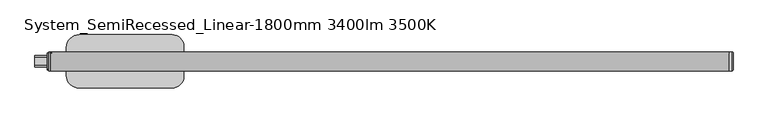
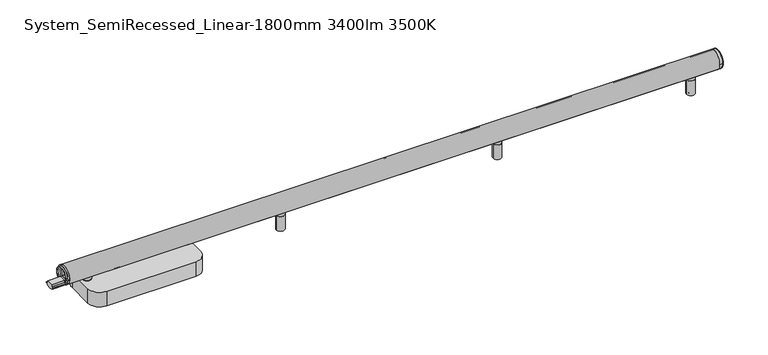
"""IFC4 building model written with IfcOpenShell, lengths in millimetres: light fixture geometry, ARTEMIDE-AoL-System-Linear_WallCeiling_US : System_SemiRecessed_Linear-1800mm 3400lm 3500K."""

import ifcopenshell
import ifcopenshell.guid

model = None  # the IFC model being written
_history = None  # IfcOwnerHistory: only IFC2X3 demands one
_inside = {}  # id of a spatial element -> (the spatial element, [elements in it])
_under = {}  # id of a project, library or spatial element -> (it, [spatial elements below it])
_declared = {}  # id of a project -> (the project, [libraries it declares])
_typed = {}  # id of a type object -> (the type object, [elements of that type])
_made_of = {}  # id of a material, layer set ... -> (it, [elements and type objects made of it])


def new_model(schema):
    """Start an empty IFC model of exactly this schema.

    Asked for "IFC4X3", IfcOpenShell would pick the latest addendum, in which some entities
    have other attributes; the version numbers below select the first issue.
    IFC2X3 requires an IfcOwnerHistory on every rooted entity: one is made here for all.
    """
    global model, _history
    if schema == "IFC4X3":
        model = ifcopenshell.file(schema_version=(4, 3, 0, 0))
    else:
        model = ifcopenshell.file(schema=schema)
    _inside.clear()
    _under.clear()
    _declared.clear()
    _typed.clear()
    _made_of.clear()
    _history = None
    if model.schema == "IFC2X3":
        org = make("IfcOrganization", Name="unknown")
        user = make(
            "IfcPersonAndOrganization",
            ThePerson=make("IfcPerson", FamilyName="unknown"),
            TheOrganization=org,
        )
        app = make(
            "IfcApplication",
            ApplicationDeveloper=org,
            Version="unknown",
            ApplicationFullName="unknown",
            ApplicationIdentifier="unknown",
        )
        _history = make(
            "IfcOwnerHistory",
            OwningUser=user,
            OwningApplication=app,
            ChangeAction="ADDED",
            CreationDate=0,
        )
    return model


def make(cls, **values):
    """One entity of the class cls with the attributes given. An attribute that is None is left unset."""
    return model.create_entity(
        cls, **{name: value for name, value in values.items() if value is not None}
    )


def rooted(cls, **values):
    """An entity with a GlobalId (a new one), such as an element, a storey or a relation."""
    return make(cls, GlobalId=ifcopenshell.guid.new(), OwnerHistory=_history, **values)


def si_unit(unit_type, name, prefix=None):
    """IfcSIUnit, for example si_unit("LENGTHUNIT", "METRE", prefix="MILLI")."""
    return make("IfcSIUnit", UnitType=unit_type, Prefix=prefix, Name=name)


def assignment(units):
    """IfcUnitAssignment: the units of a project."""
    return None if units is None else make("IfcUnitAssignment", Units=units)


def point(xyz):
    """IfcCartesianPoint."""
    return None if xyz is None else make("IfcCartesianPoint", Coordinates=xyz)


def direction(xyz):
    """IfcDirection."""
    return None if xyz is None else make("IfcDirection", DirectionRatios=xyz)


def frame(location, z_axis=None, x_axis=None):
    """IfcAxis2Placement3D, a coordinate frame: its origin and axes. An axis left out is left unset."""
    return make(
        "IfcAxis2Placement3D",
        Location=point(location),
        Axis=direction(z_axis),
        RefDirection=direction(x_axis),
    )


def frame_2d(location, x_axis=None):
    """IfcAxis2Placement2D, a coordinate frame in the plane: its origin and x axis."""
    return make(
        "IfcAxis2Placement2D", Location=point(location), RefDirection=direction(x_axis)
    )


def origin():
    """The frame at (0, 0, 0) with its axes left unset."""
    return frame((0.0, 0.0, 0.0))


def origin_with_axes():
    """The frame at (0, 0, 0) with the z axis (0, 0, 1) and the x axis (1, 0, 0) written out."""
    return frame((0.0, 0.0, 0.0), z_axis=(0.0, 0.0, 1.0), x_axis=(1.0, 0.0, 0.0))


def place(relative_to, where):
    """IfcLocalPlacement: puts the frame where relative to a parent placement (None: the world)."""
    return make(
        "IfcLocalPlacement", PlacementRelTo=relative_to, RelativePlacement=where
    )


def context(
    kind, dimensions, precision=None, world=None, true_north=None, identifier=None
):
    """IfcGeometricRepresentationContext, for example the 3D "Model" context."""
    return make(
        "IfcGeometricRepresentationContext",
        ContextIdentifier=identifier,
        ContextType=kind,
        CoordinateSpaceDimension=dimensions,
        Precision=precision,
        WorldCoordinateSystem=world,
        TrueNorth=true_north,
    )


def project(units=None, contexts=None):
    """IfcProject with its units and contexts."""
    return rooted(
        "IfcProject",
        Name="project",
        RepresentationContexts=contexts,
        UnitsInContext=assignment(units),
    )


def spatial(cls, under=None, at=None, **own):
    """A site, building, storey or space (cls), placed at a placement, below another one or the project."""
    s = rooted(cls, ObjectPlacement=at, **own)
    if under is not None:
        _under.setdefault(under.id(), (under, []))[1].append(s)
    return s


def polyline(points):
    """IfcPolyline through the points."""
    return make("IfcPolyline", Points=[point(p) for p in points])


def circle_curve(where, radius):
    """IfcCircle in the frame where."""
    return make("IfcCircle", Position=where, Radius=radius)


def ellipse_curve(where, semi_axis1, semi_axis2):
    """IfcEllipse in the frame where."""
    return make(
        "IfcEllipse", Position=where, SemiAxis1=semi_axis1, SemiAxis2=semi_axis2
    )


def trimmed(basis, trim1, trim2, sense, master):
    """IfcTrimmedCurve: the piece of a basis curve between two trims."""
    return make(
        "IfcTrimmedCurve",
        BasisCurve=basis,
        Trim1=trim1,
        Trim2=trim2,
        SenseAgreement=sense,
        MasterRepresentation=master,
    )


def segment(curve, same_sense, transition):
    """IfcCompositeCurveSegment."""
    return make(
        "IfcCompositeCurveSegment",
        Transition=transition,
        SameSense=same_sense,
        ParentCurve=curve,
    )


def composite_curve(segments, self_intersect=None):
    """IfcCompositeCurve: segments joined end to end."""
    return make("IfcCompositeCurve", Segments=segments, SelfIntersect=self_intersect)


def outline(outer, holes=None, kind="AREA"):
    """IfcArbitraryClosedProfileDef: a profile drawn as a closed curve; with holes, ...WithVoids."""
    if holes is None:
        return make("IfcArbitraryClosedProfileDef", ProfileType=kind, OuterCurve=outer)
    return make(
        "IfcArbitraryProfileDefWithVoids",
        ProfileType=kind,
        OuterCurve=outer,
        InnerCurves=holes,
    )


def extrude(swept, where, along, depth):
    """IfcExtrudedAreaSolid: the profile swept, set in the frame where, extruded along a direction by depth."""
    return make(
        "IfcExtrudedAreaSolid",
        SweptArea=swept,
        Position=where,
        ExtrudedDirection=direction(along),
        Depth=depth,
    )


def shape(context_of_items, identifier, shape_type, items):
    """IfcShapeRepresentation: the items that make up one representation, for example the "Body"."""
    return make(
        "IfcShapeRepresentation",
        ContextOfItems=context_of_items,
        RepresentationIdentifier=identifier,
        RepresentationType=shape_type,
        Items=items,
    )


def source(mapping_origin, context_of_items, identifier, shape_type, items):
    """IfcRepresentationMap: a shape defined once, which mapped items show again and again."""
    return make(
        "IfcRepresentationMap",
        MappingOrigin=mapping_origin,
        MappedRepresentation=shape(context_of_items, identifier, shape_type, items),
    )


def transform(
    local_origin,
    x_axis=None,
    y_axis=None,
    z_axis=None,
    scale=None,
    scale2=None,
    scale3=None,
    uniform=True,
):
    """IfcCartesianTransformationOperator3D, or its non-uniform kind. x_axis, y_axis, z_axis: its Axis1, 2, 3."""
    if uniform:
        return make(
            "IfcCartesianTransformationOperator3D",
            Axis1=direction(x_axis),
            Axis2=direction(y_axis),
            LocalOrigin=point(local_origin),
            Scale=scale,
            Axis3=direction(z_axis),
        )
    return make(
        "IfcCartesianTransformationOperator3DnonUniform",
        Axis1=direction(x_axis),
        Axis2=direction(y_axis),
        LocalOrigin=point(local_origin),
        Scale=scale,
        Axis3=direction(z_axis),
        Scale2=scale2,
        Scale3=scale3,
    )


def mapped(mapping_source, mapping_target):
    """IfcMappedItem: shows the shape of a source again, moved by a transform."""
    return make(
        "IfcMappedItem", MappingSource=mapping_source, MappingTarget=mapping_target
    )


def made_of(thing, what):
    """Note that an element or type object is made of a material, layer set ...; save() writes the relation."""
    if what is not None:
        _made_of.setdefault(what.id(), (what, []))[1].append(thing)
    return thing


def element(
    cls,
    number,
    at=None,
    inside=None,
    cuts=None,
    type_object=None,
    material=None,
    context=None,
    identifier="Body",
    shape_type=None,
    held_by="IfcProductDefinitionShape",
    body=None,
    shapes=None,
    **own,
):
    """One element of the class cls, such as IfcWall. Its Tag is "e" and its number.

    at: its placement. inside: the storey or other place that contains it. cuts: it is an
    opening in that element (IfcRelVoidsElement). A single representation is given by context,
    identifier, shape_type and body (its items); several are given by shapes. held_by: the class
    of the entity that holds the representations. save() writes the other relations.
    """
    e = rooted(cls, Tag="e%d" % number, ObjectPlacement=at, **own)
    if body is not None:
        shapes = [shape(context, identifier, shape_type, body)]
    if shapes is not None:
        e.Representation = make(held_by, Representations=shapes)
    if inside is not None:
        _inside.setdefault(inside.id(), (inside, []))[1].append(e)
    if cuts is not None:
        rooted(
            "IfcRelVoidsElement", RelatingBuildingElement=cuts, RelatedOpeningElement=e
        )
    if type_object is not None:
        _typed.setdefault(type_object.id(), (type_object, []))[1].append(e)
    return made_of(e, material)


def aggregate(whole, parts):
    """IfcRelAggregates: a whole, such as a stair, and the parts it consists of."""
    return rooted("IfcRelAggregates", RelatingObject=whole, RelatedObjects=parts)


def save(model, path):
    """Write the relations noted so far, then the file.

    IfcRelAggregates (storeys below a building ...), IfcRelContainedInSpatialStructure (elements
    in a storey), IfcRelDefinesByType, IfcRelAssociatesMaterial and IfcRelDeclares: one each for
    every whole, place, type object, material and project.
    """
    for whole, parts in _under.values():
        aggregate(whole, parts)
    for where, things in _inside.values():
        rooted(
            "IfcRelContainedInSpatialStructure",
            RelatedElements=things,
            RelatingStructure=where,
        )
    for kind, things in _typed.values():
        rooted("IfcRelDefinesByType", RelatedObjects=things, RelatingType=kind)
    for what, things in _made_of.values():
        rooted("IfcRelAssociatesMaterial", RelatedObjects=things, RelatingMaterial=what)
    for by, libraries in _declared.values():
        rooted("IfcRelDeclares", RelatingContext=by, RelatedDefinitions=libraries)
    model.write(path)


def plane_surface(at):
    """IfcPlane: the flat surface through the origin of the frame at, square to its z axis."""
    return make("IfcPlane", Position=at)


def cylinder_surface(at, radius):
    """IfcCylindricalSurface: all points at the distance radius from the z axis of the frame at."""
    return make("IfcCylindricalSurface", Position=at, Radius=radius)


def revolved_surface(curve, axis_point, axis_direction):
    """IfcSurfaceOfRevolution: the curve turned about the line through axis_point along axis_direction."""
    return make(
        "IfcSurfaceOfRevolution",
        SweptCurve=make("IfcArbitraryOpenProfileDef", ProfileType="CURVE", Curve=curve),
        AxisPosition=make("IfcAxis1Placement", Location=point(axis_point), Axis=direction(axis_direction)),
    )


def advanced_brep(points, edges, surfaces, faces):
    """IfcAdvancedBrep: a solid bounded by faces that lie on surfaces and meet in shared edges.

    An edge is (start, end): straight between two places in points (the first is 0);
    or (start, end, curve); or (start, end, curve, False) where it runs against its curve.
    A face is (place in surfaces, loops), or (place, loops, False) where it looks against
    its surface's normal. A loop lists edges by number (the first is 1), with a minus sign
    where the edge is run from its end to its start. The first loop is the outer one.
    """
    corners = [point(p) for p in points]
    vertices = [make("IfcVertexPoint", VertexGeometry=c) for c in corners]
    made = []
    for start, end, *more in edges:
        made.append(
            make(
                "IfcEdgeCurve",
                EdgeStart=vertices[start],
                EdgeEnd=vertices[end],
                EdgeGeometry=more[0] if more else make("IfcPolyline", Points=[corners[start], corners[end]]),
                SameSense=more[1] if len(more) > 1 else True,
            )
        )
    hull = []
    for where, loops, *sense in faces:
        bounds = []
        for j, loop in enumerate(loops):
            ring = [make("IfcOrientedEdge", EdgeElement=made[abs(k) - 1], Orientation=k > 0) for k in loop]
            bounds.append(
                make(
                    "IfcFaceOuterBound" if j == 0 else "IfcFaceBound",
                    Bound=make("IfcEdgeLoop", EdgeList=ring),
                    Orientation=True,
                )
            )
        hull.append(make("IfcAdvancedFace", Bounds=bounds, FaceSurface=surfaces[where], SameSense=sense[0] if sense else True))
    return make("IfcAdvancedBrep", Outer=make("IfcClosedShell", CfsFaces=hull))


def system_semirecessed_linear_1800mm_3400lm_3500k_d0af2abd(model_context):
    return source(origin(), model_context, "Body", "SolidModel", [
        advanced_brep(
        [(-2.0, 25.0245983, 74.9754017), (-2.0, -25.0245983, 74.9754017), (-2.0, -9.5062575, 60.6916114), (-2.0, -9.5062575, 64.3781516), (-2.0, 9.5062575, 64.3781516), (-2.0, 9.5062575, 60.6916114), (-2.0, 15.4273739, 60.6916114), (-2.0, 17.2867732, 60.6916114), (-2.0, -17.2867732, 60.6916114), (-2.0, -15.4273739, 60.6916114), (2.0, 25.0245983, 74.9754017), (2.0, -25.0245983, 74.9754017), (2.0, -9.5062575, 60.6916114), (2.0, -15.4273739, 60.6916114), (2.0, -17.2867732, 60.6916114), (2.0, 17.2867732, 60.6916114), (2.0, 15.4273739, 60.6916114), (2.0, 9.5062575, 60.6916114), (2.0, 9.5062575, 64.3781516), (2.0, -9.5062575, 64.3781516), (-6.0, -15.4273739, 60.6916114), (-6.0, -17.2867732, 60.6916114), (-6.0, 17.2867732, 60.6916114), (-6.0, 15.4273739, 60.6916114), (6.0, -15.4273739, 60.6916114), (6.0, 15.4273739, 60.6916114), (6.0, 17.2867732, 60.6916114), (6.0, -17.2867732, 60.6916114)],
        [
            (0, 1, circle_curve(frame((-2.0, 0.0, 74.9754017), z_axis=(-1.0, 0.0, 0.0), x_axis=(0.0, -1.0, 0.0)), 25.0245983)),
            (1, 0, circle_curve(frame((-2.0, 0.0, 74.9754017), z_axis=(-1.0, 0.0, 0.0), x_axis=(0.0, -1.0, 0.0)), 25.0245983)),
            (2, 3),
            (3, 4),
            (4, 5),
            (5, 6),
            (6, 7),
            (7, 8, circle_curve(frame((-2.0, 0.0, 74.9754017), z_axis=(1.0, 0.0, 0.0), x_axis=(0.0, -1.0, 0.0)), 22.4245221)),
            (8, 9),
            (9, 2),
            (10, 11, circle_curve(frame((2.0, 0.0, 74.9754017), z_axis=(1.0, 0.0, 0.0), x_axis=(0.0, -1.0, 0.0)), 25.0245983)),
            (11, 10, circle_curve(frame((2.0, 0.0, 74.9754017), z_axis=(1.0, 0.0, 0.0), x_axis=(0.0, -1.0, 0.0)), 25.0245983)),
            (12, 13),
            (13, 14),
            (14, 15, circle_curve(frame((2.0, 0.0, 74.9754017), z_axis=(-1.0, 0.0, 0.0), x_axis=(0.0, -1.0, 0.0)), 22.4245221)),
            (15, 16),
            (16, 17),
            (17, 18),
            (18, 19),
            (19, 12),
            (5, 17),
            (16, 6),
            (9, 13),
            (12, 2),
            (19, 3),
            (0, 10),
            (11, 1),
            (16, 13, circle_curve(frame((2.0, 0.0, 74.9754017), z_axis=(1.0, 0.0, 0.0), x_axis=(0.0, -1.0, 0.0)), 21.0245221)),
            (9, 6, circle_curve(frame((-2.0, 0.0, 74.9754017), z_axis=(-1.0, 0.0, 0.0), x_axis=(0.0, -1.0, 0.0)), 21.0245221)),
            (20, 21),
            (21, 22, circle_curve(frame((-6.0, 0.0, 74.9754017), z_axis=(-1.0, 0.0, 0.0), x_axis=(0.0, -1.0, 0.0)), 22.4245221)),
            (22, 23),
            (23, 20, circle_curve(frame((-6.0, 0.0, 74.9754017), z_axis=(1.0, 0.0, 0.0), x_axis=(0.0, -1.0, 0.0)), 21.0245221)),
            (24, 25, circle_curve(frame((6.0, 0.0, 74.9754017), z_axis=(-1.0, 0.0, 0.0), x_axis=(0.0, -1.0, 0.0)), 21.0245221)),
            (25, 26),
            (26, 27, circle_curve(frame((6.0, 0.0, 74.9754017), z_axis=(1.0, 0.0, 0.0), x_axis=(0.0, -1.0, 0.0)), 22.4245221)),
            (27, 24),
            (23, 6),
            (9, 20),
            (24, 13),
            (16, 25),
            (8, 21),
            (27, 14),
            (7, 22),
            (26, 15),
            (18, 4),
        ],
        [
            plane_surface(frame((-2.0, 0.0, 74.9754017), z_axis=(-1.0, 0.0, 0.0), x_axis=(0.0, 0.0, -1.0))),
            plane_surface(frame((2.0, 0.0, 74.9754017), z_axis=(1.0, 0.0, 0.0), x_axis=(0.0, 0.0, -1.0))),
            plane_surface(frame((-2.0, 9.5062575, 60.6916114), z_axis=(0.0, 0.0, 1.0), x_axis=(1.0, 0.0, 0.0))),
            plane_surface(frame((-2.0, -15.4273739, 60.6916114), z_axis=(0.0, 0.0, 1.0), x_axis=(1.0, 0.0, 0.0))),
            plane_surface(frame((-2.0, -9.5062575, 60.6916114), z_axis=(0.0, -1.0, 0.0), x_axis=(1.0, 0.0, 0.0))),
            cylinder_surface(frame((-2.0, 0.0, 74.9754017), z_axis=(-1.0, 0.0, 0.0), x_axis=(0.0, -1.0, 0.0)), 25.0245983),
            revolved_surface(polyline([(2.0, -21.0245221, 74.9754017), (-2.0, -21.0245221, 74.9754017)]), (-2.0, 0.0, 74.9754017), (1.0, 0.0, 0.0)),
            plane_surface(frame((-6.0, 0.0, 74.9754017), z_axis=(-1.0, 0.0, 0.0), x_axis=(0.0, 0.0, -1.0))),
            plane_surface(frame((6.0, 0.0, 74.9754017), z_axis=(1.0, 0.0, 0.0), x_axis=(0.0, 0.0, -1.0))),
            revolved_surface(polyline([(-2.0, -21.0245221, 74.9754017), (-6.0, -21.0245221, 74.9754017)]), (-6.0, 0.0, 74.9754017), (1.0, 0.0, 0.0)),
            revolved_surface(polyline([(6.0, -21.0245221, 74.9754017), (2.0, -21.0245221, 74.9754017)]), (-6.0, 0.0, 74.9754017), (1.0, 0.0, 0.0)),
            plane_surface(frame((-6.0, -15.4273739, 60.6916114), z_axis=(0.0, 0.0, -1.0), x_axis=(1.0, 0.0, 0.0))),
            cylinder_surface(frame((-6.0, 0.0, 74.9754017), z_axis=(-1.0, 0.0, 0.0), x_axis=(0.0, -1.0, 0.0)), 22.4245221),
            plane_surface(frame((-6.0, 17.2867732, 60.6916114), z_axis=(0.0, 0.0, -1.0), x_axis=(1.0, 0.0, 0.0))),
            plane_surface(frame((-2.0, -9.5062575, 64.3781516), z_axis=(0.0, 0.0, 1.0), x_axis=(1.0, 0.0, 0.0))),
            plane_surface(frame((-2.0, 9.5062575, 64.3781516), z_axis=(0.0, 1.0, 0.0), x_axis=(1.0, 0.0, 0.0))),
        ],
        [
            (0, [[1, 2], [3, 4, 5, 6, 7, 8, 9, 10]]),
            (1, [[11, 12], [13, 14, 15, 16, 17, 18, 19, 20]]),
            (2, [[-6, 21, -17, 22]]),
            (3, [[-10, 23, -13, 24]]),
            (4, [[-3, -24, -20, 25]]),
            (5, [[-1, 26, -12, 27]]),
            (6, [[-22, 28, -23, 29]]),
            (7, [[30, 31, 32, 33]]),
            (8, [[34, 35, 36, 37]]),
            (9, [[-33, 38, -29, 39]]),
            (10, [[-34, 40, -28, 41]]),
            (11, [[-30, -39, -9, 42]]),
            (11, [[-37, 43, -14, -40]]),
            (12, [[-31, -42, -8, 44]]),
            (12, [[-36, 45, -15, -43]]),
            (13, [[-32, -44, -7, -38]]),
            (13, [[-35, -41, -16, -45]]),
            (5, [[-2, -27, -11, -26]]),
            (14, [[-4, -25, -19, 46]]),
            (15, [[-5, -46, -18, -21]]),
        ],
    ),
        extrude(outline(composite_curve([segment(polyline([(-11.75, 57.2067494), (-15.304087, 57.2067494), (-15.304087, 58.7367744), (-9.5062575, 58.7367744), (-9.5062575, 64.3781516), (9.5062575, 64.3781516), (9.5062575, 58.7367744), (15.304087, 58.7367744), (15.304087, 57.2067494), (11.75, 57.2067494), (11.75, 52.880877)]), True, "CONTINUOUS"), segment(trimmed(circle_curve(frame_2d((0.0, 74.9754017)), 25.0245983), [point((11.75, 52.880877))], [point((-11.75, 52.880877))], False, "CARTESIAN"), True, "CONTINUOUS"), segment(polyline([(-11.75, 52.880877), (-11.75, 57.2067494)]), True, "CONTINUOUS")], self_intersect=False)), frame((2.0, 0.0, 0.0), z_axis=(1.0, 0.0, 0.0), x_axis=(0.0, 1.0, 0.0)), (0.0, 0.0, 1.0), 36.0),
        extrude(outline(composite_curve([segment(polyline([(-11.75, 57.2067494), (-15.304087, 57.2067494), (-15.304087, 58.7367744), (-9.5062575, 58.7367744), (-9.5062575, 64.3781516), (9.5062575, 64.3781516), (9.5062575, 58.7367744), (15.304087, 58.7367744), (15.304087, 57.2067494), (11.75, 57.2067494), (11.75, 52.880877)]), True, "CONTINUOUS"), segment(trimmed(circle_curve(frame_2d((0.0, 74.9754017)), 25.0245983), [point((11.75, 52.880877))], [point((-11.75, 52.880877))], False, "CARTESIAN"), True, "CONTINUOUS"), segment(polyline([(-11.75, 52.880877), (-11.75, 57.2067494)]), True, "CONTINUOUS")], self_intersect=False)), frame((-38.0, 0.0, 0.0), z_axis=(1.0, 0.0, 0.0), x_axis=(0.0, 1.0, 0.0)), (0.0, 0.0, 1.0), 36.0),
        advanced_brep(
        [(588.6387897, 0.0, 1.0), (598.027877, 0.0, 1.0), (598.027877, 0.0, 0.0), (588.6387897, 0.0, 0.0), (582.1387897, 0.0, 1.0), (604.527877, 0.0, 1.0), (582.1387897, 0.0, 42.5), (604.527877, 0.0, 42.5), (584.6144141, 0.0, 42.5), (602.0522526, 0.0, 42.5), (584.6144141, 0.0, 43.4995055), (602.0522526, 0.0, 43.4995055), (582.1387897, 0.0, 43.4995055), (604.527877, 0.0, 43.4995055), (582.1387897, 0.0, 52.9333396), (604.527877, 0.0, 52.9333396), (593.3333333, 0.0, 52.9333396), (593.3333333, 0.0, 0.0)],
        [
            (0, 1, circle_curve(frame((593.3333333, 0.0, 1.0), z_axis=(0.0, 0.0, -1.0), x_axis=(1.0, 0.0, 0.0)), 4.6945436)),
            (1, 2),
            (2, 3, circle_curve(frame((593.3333333, 0.0, 0.0), z_axis=(0.0, 0.0, 1.0), x_axis=(1.0, 0.0, 0.0)), 4.6945436)),
            (3, 0),
            (1, 0, circle_curve(frame((593.3333333, 0.0, 1.0), z_axis=(0.0, 0.0, -1.0), x_axis=(1.0, 0.0, 0.0)), 4.6945436)),
            (3, 2, circle_curve(frame((593.3333333, 0.0, 0.0), z_axis=(0.0, 0.0, 1.0), x_axis=(1.0, 0.0, 0.0)), 4.6945436)),
            (4, 5, circle_curve(frame((593.3333333, 0.0, 1.0), z_axis=(0.0, 0.0, -1.0), x_axis=(1.0, 0.0, 0.0)), 11.1945436)),
            (5, 1),
            (0, 4),
            (5, 4, circle_curve(frame((593.3333333, 0.0, 1.0), z_axis=(0.0, 0.0, -1.0), x_axis=(1.0, 0.0, 0.0)), 11.1945436)),
            (6, 7, circle_curve(frame((593.3333333, 0.0, 42.5), z_axis=(0.0, 0.0, -1.0), x_axis=(1.0, 0.0, 0.0)), 11.1945436)),
            (7, 5),
            (4, 6),
            (7, 6, circle_curve(frame((593.3333333, 0.0, 42.5), z_axis=(0.0, 0.0, -1.0), x_axis=(1.0, 0.0, 0.0)), 11.1945436)),
            (8, 9, circle_curve(frame((593.3333333, 0.0, 42.5), z_axis=(0.0, 0.0, -1.0), x_axis=(1.0, 0.0, 0.0)), 8.7189192)),
            (9, 7),
            (6, 8),
            (9, 8, circle_curve(frame((593.3333333, 0.0, 42.5), z_axis=(0.0, 0.0, -1.0), x_axis=(1.0, 0.0, 0.0)), 8.7189192)),
            (10, 11, circle_curve(frame((593.3333333, 0.0, 43.4995055), z_axis=(0.0, 0.0, -1.0), x_axis=(1.0, 0.0, 0.0)), 8.7189192)),
            (11, 9),
            (8, 10),
            (11, 10, circle_curve(frame((593.3333333, 0.0, 43.4995055), z_axis=(0.0, 0.0, -1.0), x_axis=(1.0, 0.0, 0.0)), 8.7189192)),
            (12, 13, circle_curve(frame((593.3333333, 0.0, 43.4995055), z_axis=(0.0, 0.0, -1.0), x_axis=(1.0, 0.0, 0.0)), 11.1945436)),
            (13, 11),
            (10, 12),
            (13, 12, circle_curve(frame((593.3333333, 0.0, 43.4995055), z_axis=(0.0, 0.0, -1.0), x_axis=(1.0, 0.0, 0.0)), 11.1945436)),
            (14, 15, circle_curve(frame((593.3333333, 0.0, 52.9333396), z_axis=(0.0, 0.0, -1.0), x_axis=(1.0, 0.0, 0.0)), 11.1945436)),
            (15, 13),
            (12, 14),
            (15, 14, circle_curve(frame((593.3333333, 0.0, 52.9333396), z_axis=(0.0, 0.0, -1.0), x_axis=(1.0, 0.0, 0.0)), 11.1945436)),
            (16, 15),
            (14, 16),
            (2, 17),
            (17, 3),
        ],
        [
            cylinder_surface(frame((593.3333333, 0.0, -58.83358), z_axis=(0.0, 0.0, 1.0), x_axis=(1.0, 0.0, 0.0)), 4.6945436),
            plane_surface(frame((593.3333333, 0.0, 1.0), z_axis=(0.0, 0.0, -1.0), x_axis=(1.0, 0.0, 0.0))),
            cylinder_surface(frame((593.3333333, 0.0, -58.83358), z_axis=(0.0, 0.0, 1.0), x_axis=(1.0, 0.0, 0.0)), 11.1945436),
            plane_surface(frame((593.3333333, 0.0, 42.5), z_axis=(0.0, 0.0, 1.0), x_axis=(1.0, 0.0, 0.0))),
            cylinder_surface(frame((593.3333333, 0.0, -58.83358), z_axis=(0.0, 0.0, 1.0), x_axis=(1.0, 0.0, 0.0)), 8.7189192),
            plane_surface(frame((593.3333333, 0.0, 43.4995055), z_axis=(0.0, 0.0, -1.0), x_axis=(1.0, 0.0, 0.0))),
            plane_surface(frame((593.3333333, 0.0, 52.9333396), z_axis=(0.0, 0.0, 1.0), x_axis=(1.0, 0.0, 0.0))),
            plane_surface(frame((593.3333333, 0.0, 0.0), z_axis=(0.0, 0.0, -1.0), x_axis=(1.0, 0.0, 0.0))),
        ],
        [
            (0, [[1, 2, 3, 4]]),
            (0, [[5, -4, 6, -2]]),
            (1, [[7, 8, -1, 9]]),
            (1, [[10, -9, -5, -8]]),
            (2, [[11, 12, -7, 13]]),
            (2, [[14, -13, -10, -12]]),
            (3, [[15, 16, -11, 17]]),
            (3, [[18, -17, -14, -16]]),
            (4, [[19, 20, -15, 21]]),
            (4, [[22, -21, -18, -20]]),
            (5, [[23, 24, -19, 25]]),
            (5, [[26, -25, -22, -24]]),
            (2, [[27, 28, -23, 29]]),
            (2, [[30, -29, -26, -28]]),
            (6, [[31, -27, 32]]),
            (6, [[-32, -30, -31]]),
            (7, [[-3, 33, 34]]),
            (7, [[-6, -34, -33]]),
        ],
    ),
        advanced_brep(
        [(1181.972123, 0.0, 1.0), (1191.3612103, 0.0, 1.0), (1191.3612103, 0.0, 0.0), (1181.972123, 0.0, 0.0), (1175.472123, 0.0, 1.0), (1197.8612103, 0.0, 1.0), (1175.472123, 0.0, 42.5), (1197.8612103, 0.0, 42.5), (1177.9477474, 0.0, 42.5), (1195.3855859, 0.0, 42.5), (1177.9477474, 0.0, 43.4995055), (1195.3855859, 0.0, 43.4995055), (1175.472123, 0.0, 43.4995055), (1197.8612103, 0.0, 43.4995055), (1175.472123, 0.0, 52.9333396), (1197.8612103, 0.0, 52.9333396), (1186.6666667, 0.0, 52.9333396), (1186.6666667, 0.0, 0.0)],
        [
            (0, 1, circle_curve(frame((1186.6666667, 0.0, 1.0), z_axis=(0.0, 0.0, -1.0), x_axis=(1.0, 0.0, 0.0)), 4.6945436)),
            (1, 2),
            (2, 3, circle_curve(frame((1186.6666667, 0.0, 0.0), z_axis=(0.0, 0.0, 1.0), x_axis=(1.0, 0.0, 0.0)), 4.6945436)),
            (3, 0),
            (1, 0, circle_curve(frame((1186.6666667, 0.0, 1.0), z_axis=(0.0, 0.0, -1.0), x_axis=(1.0, 0.0, 0.0)), 4.6945436)),
            (3, 2, circle_curve(frame((1186.6666667, 0.0, 0.0), z_axis=(0.0, 0.0, 1.0), x_axis=(1.0, 0.0, 0.0)), 4.6945436)),
            (4, 5, circle_curve(frame((1186.6666667, 0.0, 1.0), z_axis=(0.0, 0.0, -1.0), x_axis=(1.0, 0.0, 0.0)), 11.1945436)),
            (5, 1),
            (0, 4),
            (5, 4, circle_curve(frame((1186.6666667, 0.0, 1.0), z_axis=(0.0, 0.0, -1.0), x_axis=(1.0, 0.0, 0.0)), 11.1945436)),
            (6, 7, circle_curve(frame((1186.6666667, 0.0, 42.5), z_axis=(0.0, 0.0, -1.0), x_axis=(1.0, 0.0, 0.0)), 11.1945436)),
            (7, 5),
            (4, 6),
            (7, 6, circle_curve(frame((1186.6666667, 0.0, 42.5), z_axis=(0.0, 0.0, -1.0), x_axis=(1.0, 0.0, 0.0)), 11.1945436)),
            (8, 9, circle_curve(frame((1186.6666667, 0.0, 42.5), z_axis=(0.0, 0.0, -1.0), x_axis=(1.0, 0.0, 0.0)), 8.7189192)),
            (9, 7),
            (6, 8),
            (9, 8, circle_curve(frame((1186.6666667, 0.0, 42.5), z_axis=(0.0, 0.0, -1.0), x_axis=(1.0, 0.0, 0.0)), 8.7189192)),
            (10, 11, circle_curve(frame((1186.6666667, 0.0, 43.4995055), z_axis=(0.0, 0.0, -1.0), x_axis=(1.0, 0.0, 0.0)), 8.7189192)),
            (11, 9),
            (8, 10),
            (11, 10, circle_curve(frame((1186.6666667, 0.0, 43.4995055), z_axis=(0.0, 0.0, -1.0), x_axis=(1.0, 0.0, 0.0)), 8.7189192)),
            (12, 13, circle_curve(frame((1186.6666667, 0.0, 43.4995055), z_axis=(0.0, 0.0, -1.0), x_axis=(1.0, 0.0, 0.0)), 11.1945436)),
            (13, 11),
            (10, 12),
            (13, 12, circle_curve(frame((1186.6666667, 0.0, 43.4995055), z_axis=(0.0, 0.0, -1.0), x_axis=(1.0, 0.0, 0.0)), 11.1945436)),
            (14, 15, circle_curve(frame((1186.6666667, 0.0, 52.9333396), z_axis=(0.0, 0.0, -1.0), x_axis=(1.0, 0.0, 0.0)), 11.1945436)),
            (15, 13),
            (12, 14),
            (15, 14, circle_curve(frame((1186.6666667, 0.0, 52.9333396), z_axis=(0.0, 0.0, -1.0), x_axis=(1.0, 0.0, 0.0)), 11.1945436)),
            (16, 15),
            (14, 16),
            (2, 17),
            (17, 3),
        ],
        [
            cylinder_surface(frame((1186.6666667, 0.0, -58.83358), z_axis=(0.0, 0.0, 1.0), x_axis=(1.0, 0.0, 0.0)), 4.6945436),
            plane_surface(frame((1186.6666667, 0.0, 1.0), z_axis=(0.0, 0.0, -1.0), x_axis=(1.0, 0.0, 0.0))),
            cylinder_surface(frame((1186.6666667, 0.0, -58.83358), z_axis=(0.0, 0.0, 1.0), x_axis=(1.0, 0.0, 0.0)), 11.1945436),
            plane_surface(frame((1186.6666667, 0.0, 42.5), z_axis=(0.0, 0.0, 1.0), x_axis=(1.0, 0.0, 0.0))),
            cylinder_surface(frame((1186.6666667, 0.0, -58.83358), z_axis=(0.0, 0.0, 1.0), x_axis=(1.0, 0.0, 0.0)), 8.7189192),
            plane_surface(frame((1186.6666667, 0.0, 43.4995055), z_axis=(0.0, 0.0, -1.0), x_axis=(1.0, 0.0, 0.0))),
            plane_surface(frame((1186.6666667, 0.0, 52.9333396), z_axis=(0.0, 0.0, 1.0), x_axis=(1.0, 0.0, 0.0))),
            plane_surface(frame((1186.6666667, 0.0, 0.0), z_axis=(0.0, 0.0, -1.0), x_axis=(1.0, 0.0, 0.0))),
        ],
        [
            (0, [[1, 2, 3, 4]]),
            (0, [[5, -4, 6, -2]]),
            (1, [[7, 8, -1, 9]]),
            (1, [[10, -9, -5, -8]]),
            (2, [[11, 12, -7, 13]]),
            (2, [[14, -13, -10, -12]]),
            (3, [[15, 16, -11, 17]]),
            (3, [[18, -17, -14, -16]]),
            (4, [[19, 20, -15, 21]]),
            (4, [[22, -21, -18, -20]]),
            (5, [[23, 24, -19, 25]]),
            (5, [[26, -25, -22, -24]]),
            (2, [[27, 28, -23, 29]]),
            (2, [[30, -29, -26, -28]]),
            (6, [[31, -27, 32]]),
            (6, [[-32, -30, -31]]),
            (7, [[-3, 33, 34]]),
            (7, [[-6, -34, -33]]),
        ],
    ),
        advanced_brep(
        [(59.3054564, 0.0, 1.0), (68.6945436, 0.0, 1.0), (68.6945436, 0.0, 0.0), (59.3054564, 0.0, 0.0), (52.8054564, 0.0, 1.0), (75.1945436, 0.0, 1.0), (52.8054564, 0.0, 42.5), (75.1945436, 0.0, 42.5), (55.2810808, 0.0, 42.5), (72.7189192, 0.0, 42.5), (55.2810808, 0.0, 43.4995055), (72.7189192, 0.0, 43.4995055), (52.8054564, 0.0, 43.4995055), (75.1945436, 0.0, 43.4995055), (52.8054564, 0.0, 52.9333396), (75.1945436, 0.0, 52.9333396), (64.0, 0.0, 52.9333396), (64.0, 0.0, 0.0)],
        [
            (0, 1, circle_curve(frame((64.0, 0.0, 1.0), z_axis=(0.0, 0.0, -1.0), x_axis=(1.0, 0.0, 0.0)), 4.6945436)),
            (1, 2),
            (2, 3, circle_curve(frame((64.0, 0.0, 0.0), z_axis=(0.0, 0.0, 1.0), x_axis=(1.0, 0.0, 0.0)), 4.6945436)),
            (3, 0),
            (1, 0, circle_curve(frame((64.0, 0.0, 1.0), z_axis=(0.0, 0.0, -1.0), x_axis=(1.0, 0.0, 0.0)), 4.6945436)),
            (3, 2, circle_curve(frame((64.0, 0.0, 0.0), z_axis=(0.0, 0.0, 1.0), x_axis=(1.0, 0.0, 0.0)), 4.6945436)),
            (4, 5, circle_curve(frame((64.0, 0.0, 1.0), z_axis=(0.0, 0.0, -1.0), x_axis=(1.0, 0.0, 0.0)), 11.1945436)),
            (5, 1),
            (0, 4),
            (5, 4, circle_curve(frame((64.0, 0.0, 1.0), z_axis=(0.0, 0.0, -1.0), x_axis=(1.0, 0.0, 0.0)), 11.1945436)),
            (6, 7, circle_curve(frame((64.0, 0.0, 42.5), z_axis=(0.0, 0.0, -1.0), x_axis=(1.0, 0.0, 0.0)), 11.1945436)),
            (7, 5),
            (4, 6),
            (7, 6, circle_curve(frame((64.0, 0.0, 42.5), z_axis=(0.0, 0.0, -1.0), x_axis=(1.0, 0.0, 0.0)), 11.1945436)),
            (8, 9, circle_curve(frame((64.0, 0.0, 42.5), z_axis=(0.0, 0.0, -1.0), x_axis=(1.0, 0.0, 0.0)), 8.7189192)),
            (9, 7),
            (6, 8),
            (9, 8, circle_curve(frame((64.0, 0.0, 42.5), z_axis=(0.0, 0.0, -1.0), x_axis=(1.0, 0.0, 0.0)), 8.7189192)),
            (10, 11, circle_curve(frame((64.0, 0.0, 43.4995055), z_axis=(0.0, 0.0, -1.0), x_axis=(1.0, 0.0, 0.0)), 8.7189192)),
            (11, 9),
            (8, 10),
            (11, 10, circle_curve(frame((64.0, 0.0, 43.4995055), z_axis=(0.0, 0.0, -1.0), x_axis=(1.0, 0.0, 0.0)), 8.7189192)),
            (12, 13, circle_curve(frame((64.0, 0.0, 43.4995055), z_axis=(0.0, 0.0, -1.0), x_axis=(1.0, 0.0, 0.0)), 11.1945436)),
            (13, 11),
            (10, 12),
            (13, 12, circle_curve(frame((64.0, 0.0, 43.4995055), z_axis=(0.0, 0.0, -1.0), x_axis=(1.0, 0.0, 0.0)), 11.1945436)),
            (14, 15, circle_curve(frame((64.0, 0.0, 52.9333396), z_axis=(0.0, 0.0, -1.0), x_axis=(1.0, 0.0, 0.0)), 11.1945436)),
            (15, 13),
            (12, 14),
            (15, 14, circle_curve(frame((64.0, 0.0, 52.9333396), z_axis=(0.0, 0.0, -1.0), x_axis=(1.0, 0.0, 0.0)), 11.1945436)),
            (16, 15),
            (14, 16),
            (2, 17),
            (17, 3),
        ],
        [
            cylinder_surface(frame((64.0, 0.0, -58.83358), z_axis=(0.0, 0.0, 1.0), x_axis=(1.0, 0.0, 0.0)), 4.6945436),
            plane_surface(frame((64.0, 0.0, 1.0), z_axis=(0.0, 0.0, -1.0), x_axis=(1.0, 0.0, 0.0))),
            cylinder_surface(frame((64.0, 0.0, -58.83358), z_axis=(0.0, 0.0, 1.0), x_axis=(1.0, 0.0, 0.0)), 11.1945436),
            plane_surface(frame((64.0, 0.0, 42.5), z_axis=(0.0, 0.0, 1.0), x_axis=(1.0, 0.0, 0.0))),
            cylinder_surface(frame((64.0, 0.0, -58.83358), z_axis=(0.0, 0.0, 1.0), x_axis=(1.0, 0.0, 0.0)), 8.7189192),
            plane_surface(frame((64.0, 0.0, 43.4995055), z_axis=(0.0, 0.0, -1.0), x_axis=(1.0, 0.0, 0.0))),
            plane_surface(frame((64.0, 0.0, 52.9333396), z_axis=(0.0, 0.0, 1.0), x_axis=(1.0, 0.0, 0.0))),
            plane_surface(frame((64.0, 0.0, 0.0), z_axis=(0.0, 0.0, -1.0), x_axis=(1.0, 0.0, 0.0))),
        ],
        [
            (0, [[1, 2, 3, 4]]),
            (0, [[5, -4, 6, -2]]),
            (1, [[7, 8, -1, 9]]),
            (1, [[10, -9, -5, -8]]),
            (2, [[11, 12, -7, 13]]),
            (2, [[14, -13, -10, -12]]),
            (3, [[15, 16, -11, 17]]),
            (3, [[18, -17, -14, -16]]),
            (4, [[19, 20, -15, 21]]),
            (4, [[22, -21, -18, -20]]),
            (5, [[23, 24, -19, 25]]),
            (5, [[26, -25, -22, -24]]),
            (2, [[27, 28, -23, 29]]),
            (2, [[30, -29, -26, -28]]),
            (6, [[31, -27, 32]]),
            (6, [[-32, -30, -31]]),
            (7, [[-3, 33, 34]]),
            (7, [[-6, -34, -33]]),
        ],
    ),
        advanced_brep(
        [(1711.3054564, 0.0, 1.0), (1720.6945436, 0.0, 1.0), (1720.6945436, 0.0, 0.0), (1711.3054564, 0.0, 0.0), (1704.8054564, 0.0, 1.0), (1727.1945436, 0.0, 1.0), (1704.8054564, 0.0, 42.5), (1727.1945436, 0.0, 42.5), (1707.2810808, 0.0, 42.5), (1724.7189192, 0.0, 42.5), (1707.2810808, 0.0, 43.4995055), (1724.7189192, 0.0, 43.4995055), (1704.8054564, 0.0, 43.4995055), (1727.1945436, 0.0, 43.4995055), (1704.8054564, 0.0, 52.9333396), (1727.1945436, 0.0, 52.9333396), (1716.0, 0.0, 52.9333396), (1716.0, 0.0, 0.0)],
        [
            (0, 1, circle_curve(frame((1716.0, 0.0, 1.0), z_axis=(0.0, 0.0, -1.0), x_axis=(1.0, 0.0, 0.0)), 4.6945436)),
            (1, 2),
            (2, 3, circle_curve(frame((1716.0, 0.0, 0.0), z_axis=(0.0, 0.0, 1.0), x_axis=(1.0, 0.0, 0.0)), 4.6945436)),
            (3, 0),
            (1, 0, circle_curve(frame((1716.0, 0.0, 1.0), z_axis=(0.0, 0.0, -1.0), x_axis=(1.0, 0.0, 0.0)), 4.6945436)),
            (3, 2, circle_curve(frame((1716.0, 0.0, 0.0), z_axis=(0.0, 0.0, 1.0), x_axis=(1.0, 0.0, 0.0)), 4.6945436)),
            (4, 5, circle_curve(frame((1716.0, 0.0, 1.0), z_axis=(0.0, 0.0, -1.0), x_axis=(1.0, 0.0, 0.0)), 11.1945436)),
            (5, 1),
            (0, 4),
            (5, 4, circle_curve(frame((1716.0, 0.0, 1.0), z_axis=(0.0, 0.0, -1.0), x_axis=(1.0, 0.0, 0.0)), 11.1945436)),
            (6, 7, circle_curve(frame((1716.0, 0.0, 42.5), z_axis=(0.0, 0.0, -1.0), x_axis=(1.0, 0.0, 0.0)), 11.1945436)),
            (7, 5),
            (4, 6),
            (7, 6, circle_curve(frame((1716.0, 0.0, 42.5), z_axis=(0.0, 0.0, -1.0), x_axis=(1.0, 0.0, 0.0)), 11.1945436)),
            (8, 9, circle_curve(frame((1716.0, 0.0, 42.5), z_axis=(0.0, 0.0, -1.0), x_axis=(1.0, 0.0, 0.0)), 8.7189192)),
            (9, 7),
            (6, 8),
            (9, 8, circle_curve(frame((1716.0, 0.0, 42.5), z_axis=(0.0, 0.0, -1.0), x_axis=(1.0, 0.0, 0.0)), 8.7189192)),
            (10, 11, circle_curve(frame((1716.0, 0.0, 43.4995055), z_axis=(0.0, 0.0, -1.0), x_axis=(1.0, 0.0, 0.0)), 8.7189192)),
            (11, 9),
            (8, 10),
            (11, 10, circle_curve(frame((1716.0, 0.0, 43.4995055), z_axis=(0.0, 0.0, -1.0), x_axis=(1.0, 0.0, 0.0)), 8.7189192)),
            (12, 13, circle_curve(frame((1716.0, 0.0, 43.4995055), z_axis=(0.0, 0.0, -1.0), x_axis=(1.0, 0.0, 0.0)), 11.1945436)),
            (13, 11),
            (10, 12),
            (13, 12, circle_curve(frame((1716.0, 0.0, 43.4995055), z_axis=(0.0, 0.0, -1.0), x_axis=(1.0, 0.0, 0.0)), 11.1945436)),
            (14, 15, circle_curve(frame((1716.0, 0.0, 52.9333396), z_axis=(0.0, 0.0, -1.0), x_axis=(1.0, 0.0, 0.0)), 11.1945436)),
            (15, 13),
            (12, 14),
            (15, 14, circle_curve(frame((1716.0, 0.0, 52.9333396), z_axis=(0.0, 0.0, -1.0), x_axis=(1.0, 0.0, 0.0)), 11.1945436)),
            (16, 15),
            (14, 16),
            (2, 17),
            (17, 3),
        ],
        [
            cylinder_surface(frame((1716.0, 0.0, -58.83358), z_axis=(0.0, 0.0, 1.0), x_axis=(1.0, 0.0, 0.0)), 4.6945436),
            plane_surface(frame((1716.0, 0.0, 1.0), z_axis=(0.0, 0.0, -1.0), x_axis=(1.0, 0.0, 0.0))),
            cylinder_surface(frame((1716.0, 0.0, -58.83358), z_axis=(0.0, 0.0, 1.0), x_axis=(1.0, 0.0, 0.0)), 11.1945436),
            plane_surface(frame((1716.0, 0.0, 42.5), z_axis=(0.0, 0.0, 1.0), x_axis=(1.0, 0.0, 0.0))),
            cylinder_surface(frame((1716.0, 0.0, -58.83358), z_axis=(0.0, 0.0, 1.0), x_axis=(1.0, 0.0, 0.0)), 8.7189192),
            plane_surface(frame((1716.0, 0.0, 43.4995055), z_axis=(0.0, 0.0, -1.0), x_axis=(1.0, 0.0, 0.0))),
            plane_surface(frame((1716.0, 0.0, 52.9333396), z_axis=(0.0, 0.0, 1.0), x_axis=(1.0, 0.0, 0.0))),
            plane_surface(frame((1716.0, 0.0, 0.0), z_axis=(0.0, 0.0, -1.0), x_axis=(1.0, 0.0, 0.0))),
        ],
        [
            (0, [[1, 2, 3, 4]]),
            (0, [[5, -4, 6, -2]]),
            (1, [[7, 8, -1, 9]]),
            (1, [[10, -9, -5, -8]]),
            (2, [[11, 12, -7, 13]]),
            (2, [[14, -13, -10, -12]]),
            (3, [[15, 16, -11, 17]]),
            (3, [[18, -17, -14, -16]]),
            (4, [[19, 20, -15, 21]]),
            (4, [[22, -21, -18, -20]]),
            (5, [[23, 24, -19, 25]]),
            (5, [[26, -25, -22, -24]]),
            (2, [[27, 28, -23, 29]]),
            (2, [[30, -29, -26, -28]]),
            (6, [[31, -27, 32]]),
            (6, [[-32, -30, -31]]),
            (7, [[-3, 33, 34]]),
            (7, [[-6, -34, -33]]),
        ],
    ),
        advanced_brep(
        [(1792.0, -22.0, 75.0), (1792.0, 22.0, 75.0), (1782.0, 25.0, 75.0), (1782.0, -25.0, 75.0), (1789.0, -25.0, 75.0), (1789.0, 25.0, 75.0)],
        [
            (0, 1, circle_curve(frame((1792.0, 0.0, 75.0), z_axis=(1.0, 0.0, 0.0), x_axis=(0.0, 1.0, 0.0)), 22.0)),
            (1, 0, circle_curve(frame((1792.0, 0.0, 75.0), z_axis=(1.0, 0.0, 0.0), x_axis=(0.0, -1.0, 0.0)), 22.0)),
            (2, 3, circle_curve(frame((1782.0, 0.0, 75.0), z_axis=(-1.0, 0.0, 0.0), x_axis=(0.0, 0.0, 1.0)), 25.0)),
            (3, 2, circle_curve(frame((1782.0, 0.0, 75.0), z_axis=(-1.0, 0.0, 0.0), x_axis=(0.0, 0.0, 1.0)), 25.0)),
            (3, 4),
            (4, 5, circle_curve(frame((1789.0, 0.0, 75.0), z_axis=(-1.0, 0.0, 0.0), x_axis=(0.0, 0.0, 1.0)), 25.0)),
            (5, 2),
            (5, 4, circle_curve(frame((1789.0, 0.0, 75.0), z_axis=(-1.0, 0.0, 0.0), x_axis=(0.0, 0.0, 1.0)), 25.0)),
            (0, 4, circle_curve(frame((1789.0, -22.0, 75.0), z_axis=(0.0, 0.0, -1.0), x_axis=(0.0, -1.0, 0.0)), 3.0)),
            (5, 1, circle_curve(frame((1789.0, 22.0, 75.0), z_axis=(0.0, 0.0, -1.0), x_axis=(0.0, 1.0, 0.0)), 3.0)),
        ],
        [
            plane_surface(frame((1792.0, 0.0, 100.0), z_axis=(1.0, 0.0, 0.0), x_axis=(0.0, -1.0, 0.0))),
            plane_surface(frame((1782.0, 0.0, 100.0), z_axis=(-1.0, 0.0, 0.0), x_axis=(0.0, 1.0, 0.0))),
            cylinder_surface(frame((1782.0, 0.0, 75.0), z_axis=(1.0, 0.0, 0.0), x_axis=(0.0, 0.0, 1.0)), 25.0),
            revolved_surface(trimmed(ellipse_curve(frame((1789.0, 22.0, 75.0), z_axis=(0.0, 0.0, 1.0), x_axis=(0.0, 1.0, 0.0)), 3.0, 3.0), [point((1792.0, 22.0, 75.0))], [point((1789.0, 25.0, 75.0))], True, "CARTESIAN"), (1792.0, 0.0, 75.0), (-1.0, 0.0, 0.0)),
            revolved_surface(trimmed(ellipse_curve(frame((1789.0, -22.0, 75.0), z_axis=(0.0, 0.0, -1.0), x_axis=(0.0, -1.0, 0.0)), 3.0, 3.0), [point((1792.0, -22.0, 75.0))], [point((1789.0, -25.0, 75.0))], True, "CARTESIAN"), (1792.0, 0.0, 75.0), (-1.0, 0.0, 0.0)),
        ],
        [
            (0, [[1, 2]]),
            (1, [[3, 4]]),
            (2, [[-4, 5, 6, 7]]),
            (2, [[-3, -7, 8, -5]]),
            (3, [[9, -8, 10, -1]]),
            (4, [[-9, -2, -10, -6]]),
        ],
    ),
        extrude(outline(composite_curve([segment(trimmed(circle_curve(frame_2d((0.0, 75.0)), 25.0), [point((-11.75, 52.9333396))], [point((11.75, 52.9333396))], False, "CARTESIAN"), True, "CONTINUOUS"), segment(polyline([(11.75, 52.9333396), (11.75, 57.259212), (13.667754, 57.259212), (13.667754, 55.8288843), (15.617754, 57.2440748), (15.617754, 59.244074), (12.667754, 59.244074), (12.667754, 60.744074), (17.2779794, 60.744074)]), True, "CONTINUOUS"), segment(trimmed(circle_curve(frame_2d((0.0, 75.0)), 22.4), [point((17.2779794, 60.744074))], [point((-17.2779794, 60.744074))], True, "CARTESIAN"), True, "CONTINUOUS"), segment(polyline([(-17.2779794, 60.744074), (-12.667754, 60.744074), (-12.667754, 59.244074), (-15.617754, 59.244074), (-15.617754, 57.2440748), (-13.667754, 55.8288843), (-13.667754, 57.259212), (-11.75, 57.259212), (-11.75, 52.9333396)]), True, "CONTINUOUS")], self_intersect=False)), frame((2.0, 0.0, 0.0), z_axis=(1.0, 0.0, 0.0), x_axis=(0.0, 1.0, 0.0)), (0.0, 0.0, 1.0), 1780.0),
        extrude(outline(composite_curve([segment(trimmed(circle_curve(frame_2d((0.0, 75.0)), 25.0), [point((11.75, 52.9333396))], [point((-11.75, 52.9333396))], False, "CARTESIAN"), True, "CONTINUOUS"), segment(polyline([(-11.75, 52.9333396), (-11.75, 57.259212), (-15.304087, 57.259212), (-15.304087, 58.785971), (-9.5062575, 58.785971), (-9.5062575, 64.4273482), (9.5062575, 64.4273482), (9.5062575, 58.785971), (15.304087, 58.785971), (15.304087, 57.259212), (11.75, 57.259212), (11.75, 52.9333396)]), True, "CONTINUOUS")], self_intersect=False)), frame((38.0, 0.0, 0.0), z_axis=(1.0, 0.0, 0.0), x_axis=(0.0, 1.0, 0.0)), (0.0, 0.0, 1.0), 1744.0),
        extrude(outline(composite_curve([segment(polyline([(77.8708919, 70.0), (321.7624415, 70.0)]), True, "CONTINUOUS"), segment(trimmed(circle_curve(frame_2d((321.7624415, 39.1291081)), 30.8708919), [point((321.7624415, 70.0))], [point((352.6333333, 39.1291081))], False, "CARTESIAN"), True, "CONTINUOUS"), segment(polyline([(352.6333333, 39.1291081), (352.6333333, -39.1500001)]), True, "CONTINUOUS"), segment(trimmed(circle_curve(frame_2d((321.7624415, -39.1500001)), 30.8708919), [point((352.6333333, -39.1500001))], [point((321.7624415, -70.020892))], False, "CARTESIAN"), True, "CONTINUOUS"), segment(polyline([(321.7624415, -70.020892), (77.8708919, -70.020892)]), True, "CONTINUOUS"), segment(trimmed(circle_curve(frame_2d((77.8708919, -36.4833335)), 33.5375585), [point((77.8708919, -70.020892))], [point((44.3333333, -36.4833335))], False, "CARTESIAN"), True, "CONTINUOUS"), segment(polyline([(44.3333333, -36.4833335), (44.3333333, 36.4624415)]), True, "CONTINUOUS"), segment(trimmed(circle_curve(frame_2d((77.8708919, 36.4624415)), 33.5375585), [point((44.3333333, 36.4624415))], [point((77.8708919, 70.0))], False, "CARTESIAN"), True, "CONTINUOUS")], self_intersect=False)), origin_with_axes(), (0.0, 0.0, 1.0), 42.0),
    ])


if __name__ == "__main__":
    model = new_model("IFC4")
    model_context = context("Model", 3, world=origin())
    ifc_project = project(units=[si_unit("LENGTHUNIT", "METRE", prefix="MILLI")], contexts=[model_context])
    site = spatial("IfcSite", under=ifc_project)
    building = spatial("IfcBuilding", under=site)
    placement = place(None, origin())
    system_semirecessed_linear_1800mm_3400lm_3500k_shape = system_semirecessed_linear_1800mm_3400lm_3500k_d0af2abd(model_context)
    element("IfcLightFixture", 1, ObjectType="ARTEMIDE-AoL-System-Linear_WallCeiling_US : System_SemiRecessed_Linear-1800mm 3400lm 3500K", at=placement, inside=building, context=model_context, shape_type="MappedRepresentation", body=[
        mapped(system_semirecessed_linear_1800mm_3400lm_3500k_shape, transform((0.0, 0.0, 0.0), x_axis=(1.0, 0.0, 0.0), y_axis=(0.0, 1.0, 0.0), z_axis=(0.0, 0.0, 1.0))),
    ])
    save(model, "model.ifc")
